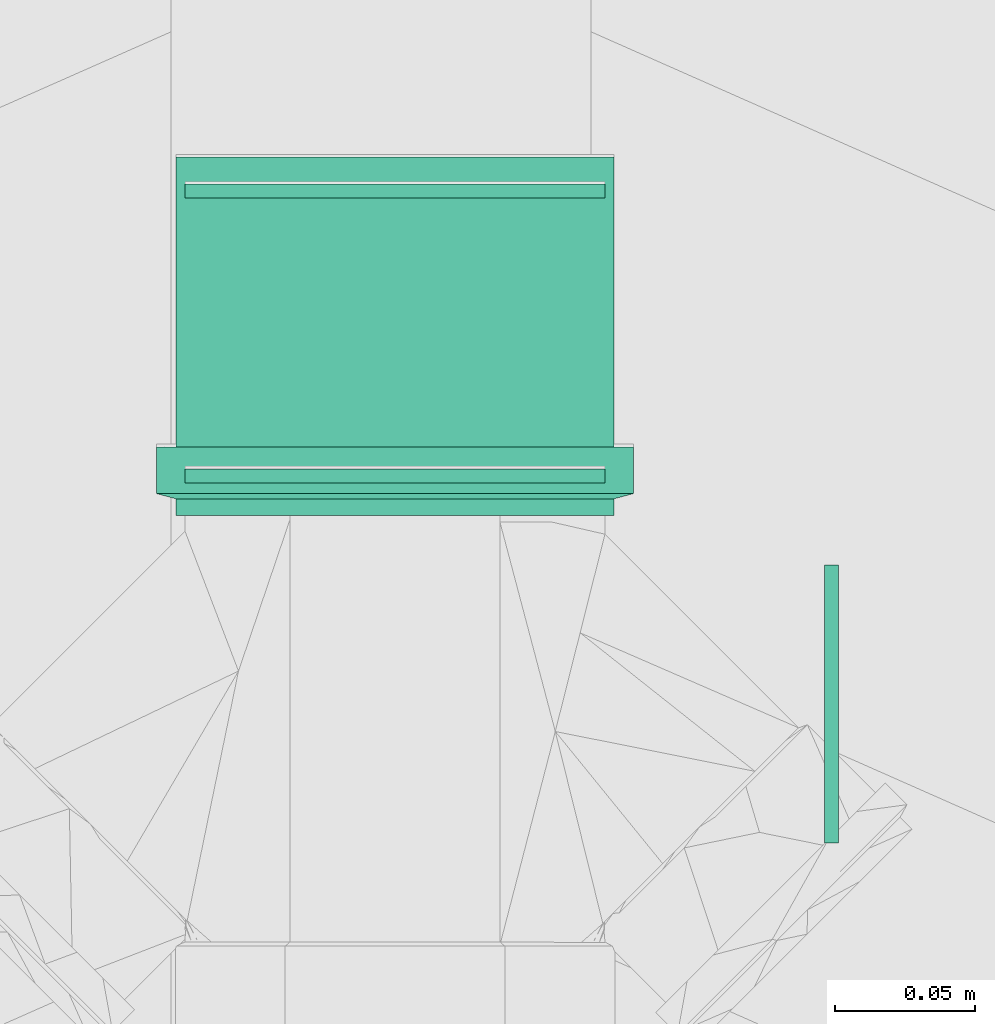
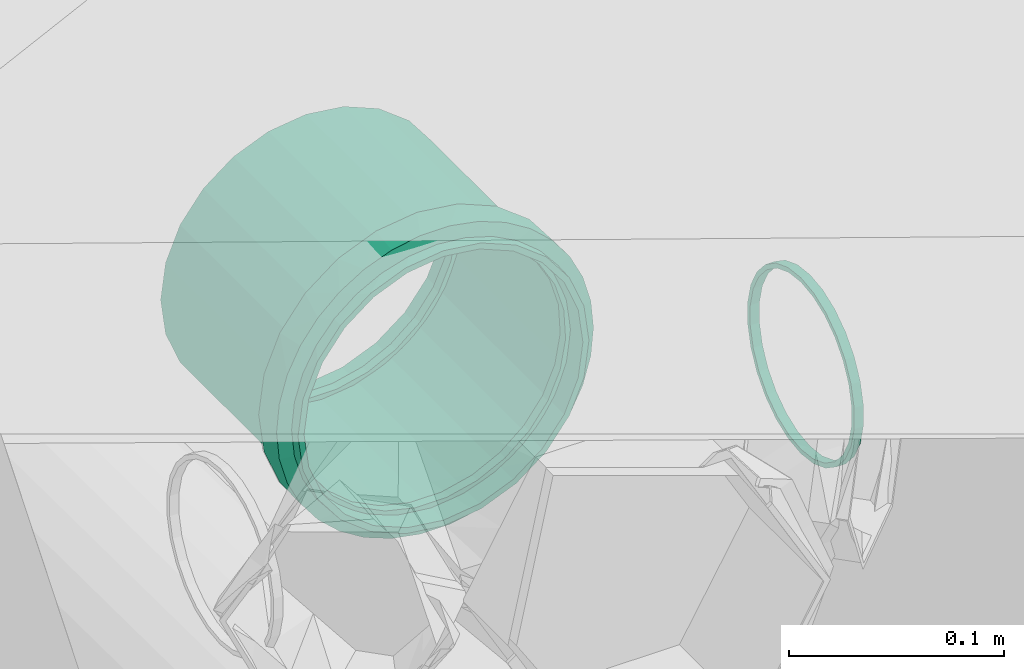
# One storey, part 84 of 166: 4 flow fittings.
"""IFC2X3 building model written with IfcOpenShell, lengths in metres."""

import ifcopenshell
import ifcopenshell.guid

model = None  # the IFC model being written
_history = None  # IfcOwnerHistory: only IFC2X3 demands one
_inside = {}  # id of a spatial element -> (the spatial element, [elements in it])
_under = {}  # id of a project, library or spatial element -> (it, [spatial elements below it])
_declared = {}  # id of a project -> (the project, [libraries it declares])
_typed = {}  # id of a type object -> (the type object, [elements of that type])
_made_of = {}  # id of a material, layer set ... -> (it, [elements and type objects made of it])


def new_model(schema):
    """Start an empty IFC model of exactly this schema.

    Asked for "IFC4X3", IfcOpenShell would pick the latest addendum, in which some entities
    have other attributes; the version numbers below select the first issue.
    IFC2X3 requires an IfcOwnerHistory on every rooted entity: one is made here for all.
    """
    global model, _history
    if schema == "IFC4X3":
        model = ifcopenshell.file(schema_version=(4, 3, 0, 0))
    else:
        model = ifcopenshell.file(schema=schema)
    _inside.clear()
    _under.clear()
    _declared.clear()
    _typed.clear()
    _made_of.clear()
    _history = None
    if model.schema == "IFC2X3":
        org = make("IfcOrganization", Name="unknown")
        user = make(
            "IfcPersonAndOrganization",
            ThePerson=make("IfcPerson", FamilyName="unknown"),
            TheOrganization=org,
        )
        app = make(
            "IfcApplication",
            ApplicationDeveloper=org,
            Version="unknown",
            ApplicationFullName="unknown",
            ApplicationIdentifier="unknown",
        )
        _history = make(
            "IfcOwnerHistory",
            OwningUser=user,
            OwningApplication=app,
            ChangeAction="ADDED",
            CreationDate=0,
        )
    return model


def make(cls, **values):
    """One entity of the class cls with the attributes given. An attribute that is None is left unset."""
    return model.create_entity(
        cls, **{name: value for name, value in values.items() if value is not None}
    )


def entity(cls, *values):
    """Any entity or typed value of the class cls, its attributes in the order of the schema. None: left unset."""
    e = model.create_entity(cls)
    for i, value in enumerate(values):
        if value is not None:
            e[i] = value
    return e


def rooted(cls, **values):
    """An entity with a GlobalId (a new one), such as an element, a storey or a relation."""
    return make(cls, GlobalId=ifcopenshell.guid.new(), OwnerHistory=_history, **values)


def si_unit(unit_type, name, prefix=None):
    """IfcSIUnit, for example si_unit("LENGTHUNIT", "METRE", prefix="MILLI")."""
    return make("IfcSIUnit", UnitType=unit_type, Prefix=prefix, Name=name)


def converted_unit(unit_type, name, factor, base, dimensions=None, offset=None):
    """IfcConversionBasedUnit, such as the inch: factor (a typed value) times the base unit."""
    return make(
        "IfcConversionBasedUnit"
        if offset is None
        else "IfcConversionBasedUnitWithOffset",
        ConversionOffset=offset,
        Dimensions=None
        if dimensions is None
        else entity("IfcDimensionalExponents", *dimensions),
        UnitType=unit_type,
        Name=name,
        ConversionFactor=make(
            "IfcMeasureWithUnit", ValueComponent=factor, UnitComponent=base
        ),
    )


def assignment(units):
    """IfcUnitAssignment: the units of a project."""
    return None if units is None else make("IfcUnitAssignment", Units=units)


def point(xyz):
    """IfcCartesianPoint."""
    return None if xyz is None else make("IfcCartesianPoint", Coordinates=xyz)


def direction(xyz):
    """IfcDirection."""
    return None if xyz is None else make("IfcDirection", DirectionRatios=xyz)


def frame(location, z_axis=None, x_axis=None):
    """IfcAxis2Placement3D, a coordinate frame: its origin and axes. An axis left out is left unset."""
    return make(
        "IfcAxis2Placement3D",
        Location=point(location),
        Axis=direction(z_axis),
        RefDirection=direction(x_axis),
    )


def frame_2d(location, x_axis=None):
    """IfcAxis2Placement2D, a coordinate frame in the plane: its origin and x axis."""
    return make(
        "IfcAxis2Placement2D", Location=point(location), RefDirection=direction(x_axis)
    )


def origin():
    """The frame at (0, 0, 0) with its axes left unset."""
    return frame((0.0, 0.0, 0.0))


def place(relative_to, where):
    """IfcLocalPlacement: puts the frame where relative to a parent placement (None: the world)."""
    return make(
        "IfcLocalPlacement", PlacementRelTo=relative_to, RelativePlacement=where
    )


def context(
    kind, dimensions, precision=None, world=None, true_north=None, identifier=None
):
    """IfcGeometricRepresentationContext, for example the 3D "Model" context."""
    return make(
        "IfcGeometricRepresentationContext",
        ContextIdentifier=identifier,
        ContextType=kind,
        CoordinateSpaceDimension=dimensions,
        Precision=precision,
        WorldCoordinateSystem=world,
        TrueNorth=true_north,
    )


def subcontext(parent, identifier, kind, view, scale=None):
    """IfcGeometricRepresentationSubContext, for example "Body" below "Model"."""
    return make(
        "IfcGeometricRepresentationSubContext",
        ContextIdentifier=identifier,
        ContextType=kind,
        ParentContext=parent,
        TargetScale=scale,
        TargetView=view,
    )


def project(units=None, contexts=None):
    """IfcProject with its units and contexts."""
    return rooted(
        "IfcProject",
        Name="project",
        RepresentationContexts=contexts,
        UnitsInContext=assignment(units),
    )


def spatial(cls, under=None, at=None, **own):
    """A site, building, storey or space (cls), placed at a placement, below another one or the project."""
    s = rooted(cls, ObjectPlacement=at, **own)
    if under is not None:
        _under.setdefault(under.id(), (under, []))[1].append(s)
    return s


def profile(cls, at=None, kind="AREA", **sizes):
    """A parametric profile (cls). Its sizes go by their IFC names, for example OverallWidth=200.0."""
    return make(cls, ProfileType=kind, Position=at, **sizes)


def hollow_circle(**sizes):
    """IfcCircleHollowProfileDef."""
    return profile("IfcCircleHollowProfileDef", **sizes)


def extrude(swept, where, along, depth):
    """IfcExtrudedAreaSolid: the profile swept, set in the frame where, extruded along a direction by depth."""
    return make(
        "IfcExtrudedAreaSolid",
        SweptArea=swept,
        Position=where,
        ExtrudedDirection=direction(along),
        Depth=depth,
    )


def faces_of(points, faces, orient=None, outer=None):
    """IfcFace entities. A face is a list of loops; a loop is a list of indices into points, from 0.

    orient and outer hold one flag for each loop. By default every Orientation is true, the
    first loop of a face is its IfcFaceOuterBound and the others are IfcFaceBound.
    """
    made = []
    for i, loops in enumerate(faces):
        bounds = []
        for j, loop in enumerate(loops):
            is_outer = j == 0 if outer is None else outer[i][j]
            bounds.append(
                make(
                    "IfcFaceOuterBound" if is_outer else "IfcFaceBound",
                    Bound=make("IfcPolyLoop", Polygon=[points[k] for k in loop]),
                    Orientation=True if orient is None else orient[i][j],
                )
            )
        made.append(make("IfcFace", Bounds=bounds))
    return made


def faceted_brep(points, faces, orient=None, outer=None, voids=None):
    """IfcFacetedBrep: a solid bounded by flat faces; with voids (closed shells), ...WithVoids."""
    shared = [point(p) for p in points]
    hull = make("IfcClosedShell", CfsFaces=faces_of(shared, faces, orient, outer))
    if voids is None:
        return make("IfcFacetedBrep", Outer=hull)
    return make(
        "IfcFacetedBrepWithVoids",
        Outer=hull,
        Voids=[
            make(cls, CfsFaces=faces_of(shared, fs, o, b)) for cls, fs, o, b in voids
        ],
    )


def shape(context_of_items, identifier, shape_type, items):
    """IfcShapeRepresentation: the items that make up one representation, for example the "Body"."""
    return make(
        "IfcShapeRepresentation",
        ContextOfItems=context_of_items,
        RepresentationIdentifier=identifier,
        RepresentationType=shape_type,
        Items=items,
    )


def source(mapping_origin, context_of_items, identifier, shape_type, items):
    """IfcRepresentationMap: a shape defined once, which mapped items show again and again."""
    return make(
        "IfcRepresentationMap",
        MappingOrigin=mapping_origin,
        MappedRepresentation=shape(context_of_items, identifier, shape_type, items),
    )


def transform(
    local_origin,
    x_axis=None,
    y_axis=None,
    z_axis=None,
    scale=None,
    scale2=None,
    scale3=None,
    uniform=True,
):
    """IfcCartesianTransformationOperator3D, or its non-uniform kind. x_axis, y_axis, z_axis: its Axis1, 2, 3."""
    if uniform:
        return make(
            "IfcCartesianTransformationOperator3D",
            Axis1=direction(x_axis),
            Axis2=direction(y_axis),
            LocalOrigin=point(local_origin),
            Scale=scale,
            Axis3=direction(z_axis),
        )
    return make(
        "IfcCartesianTransformationOperator3DnonUniform",
        Axis1=direction(x_axis),
        Axis2=direction(y_axis),
        LocalOrigin=point(local_origin),
        Scale=scale,
        Axis3=direction(z_axis),
        Scale2=scale2,
        Scale3=scale3,
    )


def mapped(mapping_source, mapping_target):
    """IfcMappedItem: shows the shape of a source again, moved by a transform."""
    return make(
        "IfcMappedItem", MappingSource=mapping_source, MappingTarget=mapping_target
    )


def material(Name=None, Category=None):
    """IfcMaterial."""
    return make("IfcMaterial", Name=Name, Category=Category)


def made_of(thing, what):
    """Note that an element or type object is made of a material, layer set ...; save() writes the relation."""
    if what is not None:
        _made_of.setdefault(what.id(), (what, []))[1].append(thing)
    return thing


def type_object(cls, material=None, **own):
    """A type object (cls), such as IfcWallType, which elements share."""
    return made_of(rooted(cls, **own), material)


def type_shapes(of_type, sources):
    """Give a type object the sources (RepresentationMaps) that its elements show as mapped items."""
    of_type.RepresentationMaps = sources


def element(
    cls,
    number,
    at=None,
    inside=None,
    cuts=None,
    type_object=None,
    material=None,
    context=None,
    identifier="Body",
    shape_type=None,
    held_by="IfcProductDefinitionShape",
    body=None,
    shapes=None,
    **own,
):
    """One element of the class cls, such as IfcWall. Its Tag is "e" and its number.

    at: its placement. inside: the storey or other place that contains it. cuts: it is an
    opening in that element (IfcRelVoidsElement). A single representation is given by context,
    identifier, shape_type and body (its items); several are given by shapes. held_by: the class
    of the entity that holds the representations. save() writes the other relations.
    """
    e = rooted(cls, Tag="e%d" % number, ObjectPlacement=at, **own)
    if body is not None:
        shapes = [shape(context, identifier, shape_type, body)]
    if shapes is not None:
        e.Representation = make(held_by, Representations=shapes)
    if inside is not None:
        _inside.setdefault(inside.id(), (inside, []))[1].append(e)
    if cuts is not None:
        rooted(
            "IfcRelVoidsElement", RelatingBuildingElement=cuts, RelatedOpeningElement=e
        )
    if type_object is not None:
        _typed.setdefault(type_object.id(), (type_object, []))[1].append(e)
    return made_of(e, material)


def aggregate(whole, parts):
    """IfcRelAggregates: a whole, such as a stair, and the parts it consists of."""
    return rooted("IfcRelAggregates", RelatingObject=whole, RelatedObjects=parts)


def save(model, path):
    """Write the relations noted so far, then the file.

    IfcRelAggregates (storeys below a building ...), IfcRelContainedInSpatialStructure (elements
    in a storey), IfcRelDefinesByType, IfcRelAssociatesMaterial and IfcRelDeclares: one each for
    every whole, place, type object, material and project.
    """
    for whole, parts in _under.values():
        aggregate(whole, parts)
    for where, things in _inside.values():
        rooted(
            "IfcRelContainedInSpatialStructure",
            RelatedElements=things,
            RelatingStructure=where,
        )
    for kind, things in _typed.values():
        rooted("IfcRelDefinesByType", RelatedObjects=things, RelatingType=kind)
    for what, things in _made_of.values():
        rooted("IfcRelAssociatesMaterial", RelatedObjects=things, RelatingMaterial=what)
    for by, libraries in _declared.values():
        rooted("IfcRelDeclares", RelatingContext=by, RelatedDefinitions=libraries)
    model.write(path)


model = new_model("IFC2X3")

# Units and contexts
model_context = context("Model", 3, precision=1e-05, world=origin(), true_north=direction((6.123233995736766e-17, 1.0)))
body_context = subcontext(model_context, "Body", "Model", "MODEL_VIEW")
ifc_project = project(units=[si_unit("LENGTHUNIT", "METRE"), converted_unit("PLANEANGLEUNIT", "DEGREE", entity("IfcPlaneAngleMeasure", 0.017453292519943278), si_unit("PLANEANGLEUNIT", "RADIAN"), dimensions=[0, 0, 0, 0, 0, 0, 0]), si_unit("AREAUNIT", "SQUARE_METRE")], contexts=[model_context])

# Site, building, storey
site_placement = place(None, origin())
site = spatial("IfcSite", under=ifc_project, at=site_placement, Name="Default", CompositionType="ELEMENT")
building_placement = place(site_placement, origin())
building = spatial("IfcBuilding", under=site, at=building_placement, Name="CASA DE ACOLHIDA PARA IDOSOS", CompositionType="ELEMENT")
storey_placement = place(building_placement, frame((0.0, 0.0, -1.7499999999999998)))
storey = spatial("IfcBuildingStorey", under=building, at=storey_placement, Name="IMPLANTAÇÃO DRENAGEM", CompositionType="ELEMENT", Elevation=-1.7499999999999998)

# Flow fittings
ifc_material_1 = material(Name="PVC Bege Pérola")
pipe_fitting_type_1 = type_object("IfcPipeFittingType", Name="PLUV_Serie Reforcada_Luva Simples:Standard", PredefinedType="NOTDEFINED", material=ifc_material_1)
shared_shape_1 = source(origin(), body_context, "Body", "Brep", [
    faceted_brep([(0.02451000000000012, 0.04262500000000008, -0.07382866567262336), (0.02451000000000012, 0.06028085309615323, -0.06028085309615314), (0.02451000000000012, 0.039124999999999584, -0.06776648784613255), (0.02451000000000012, 0.020252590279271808, -0.0755836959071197), (0.02451000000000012, 0.022064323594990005, -0.08234517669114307), (0.02451000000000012, 0.05533110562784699, -0.055331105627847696), (0.02451000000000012, 0.07382866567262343, -0.04262499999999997), (0.02451000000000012, 0.06776648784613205, -0.03912500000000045), (0.02451000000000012, 0.07558369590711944, -0.02025259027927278), (0.02451000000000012, 0.08234517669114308, -0.022064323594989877), (0.02451000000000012, 0.07825, 0.0), (0.02451000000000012, 0.08525, 0.0), (0.02451000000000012, 0.07558369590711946, 0.020252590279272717), (0.02451000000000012, 0.0823451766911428, 0.022064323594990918), (0.02451000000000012, 0.06776648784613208, 0.039125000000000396), (0.02451000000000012, 0.07382866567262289, 0.04262500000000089), (0.02451000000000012, 0.05533110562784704, 0.055331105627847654), (0.02451000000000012, 0.06028085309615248, 0.0602808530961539), (0.02451000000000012, 0.03912499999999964, 0.06776648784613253), (0.02451000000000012, 0.04262499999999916, 0.07382866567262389), (0.02451000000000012, 0.020252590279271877, 0.07558369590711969), (0.02451000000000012, 0.02206432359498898, 0.08234517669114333), (0.02451000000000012, 0.0, 0.07825), (0.02451000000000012, 0.0, 0.08525), (0.02451000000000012, -0.020252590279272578, 0.0755836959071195), (0.02451000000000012, -0.022064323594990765, 0.08234517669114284), (0.02451000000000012, -0.03912500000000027, 0.06776648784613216), (0.02451000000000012, -0.042625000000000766, 0.07382866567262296), (0.02451000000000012, -0.05533110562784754, 0.055331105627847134), (0.02451000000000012, -0.0602808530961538, 0.06028085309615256), (0.02451000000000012, -0.06776648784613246, 0.03912499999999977), (0.02451000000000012, -0.07382866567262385, 0.042624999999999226), (0.02451000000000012, -0.08234517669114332, 0.02206432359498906), (0.02451000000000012, -0.07558369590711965, 0.020252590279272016), (0.02451000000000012, -0.08525, 0.0), (0.02451000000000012, -0.07825, 0.0), (0.02451000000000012, -0.08234517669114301, -0.022064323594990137), (0.02451000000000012, -0.07558369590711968, -0.020252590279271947), (0.02451000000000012, -0.07382866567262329, -0.04262500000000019), (0.02451000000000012, -0.0677664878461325, -0.03912499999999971), (0.02451000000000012, -0.060280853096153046, -0.060280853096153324), (0.02451000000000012, -0.05533110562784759, -0.055331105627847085), (0.02451000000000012, -0.042624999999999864, -0.0738286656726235), (0.02451000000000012, -0.039125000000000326, -0.06776648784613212), (0.02451000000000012, -0.02206432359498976, -0.08234517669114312), (0.02451000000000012, -0.02025259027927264, -0.07558369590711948), (0.02451000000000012, 0.0, -0.08525), (0.02451000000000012, 0.0, -0.07825), (0.007830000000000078, -0.08379835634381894, 0.01566518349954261), (0.007830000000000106, -0.07949286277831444, 0.03079687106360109), (0.007830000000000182, -0.05137242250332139, 0.06803261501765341), (0.007830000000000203, -0.03799626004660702, 0.07631413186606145), (0.007830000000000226, -0.00786152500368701, 0.08488674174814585), (0.00783000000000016, -0.06299903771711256, 0.057434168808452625), (0.007830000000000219, -0.023326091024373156, 0.08199668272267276), (0.007830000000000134, -0.07248014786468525, 0.044879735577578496), (0.00783000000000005, -0.08525, 0.0), (0.00783000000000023, 0.007870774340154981, 0.08488588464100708), (0.007830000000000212, 0.03800457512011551, 0.07630999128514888), (0.007830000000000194, 0.05137983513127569, 0.06802701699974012), (0.007830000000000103, 0.07949621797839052, 0.030788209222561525), (0.007830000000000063, 0.08380006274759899, 0.015656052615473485), (0.007830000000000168, 0.06300529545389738, 0.05742730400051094), (0.00783000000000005, 0.08525, 0.0), (0.007830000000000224, 0.023335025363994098, 0.08199414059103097), (0.007830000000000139, 0.07248503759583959, 0.04487183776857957), (0.007830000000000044, 0.08380006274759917, -0.015656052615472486), (0.007830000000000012, 0.07949621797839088, -0.03078820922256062), (0.00782999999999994, 0.05137983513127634, -0.06802701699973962), (0.007829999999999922, 0.038004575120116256, -0.07630999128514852), (0.007829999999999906, 0.007870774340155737, -0.084885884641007), (0.00782999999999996, 0.063005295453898, -0.05742730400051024), (0.007829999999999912, 0.023335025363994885, -0.08199414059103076), (0.007829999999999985, 0.07248503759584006, -0.04487183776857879), (0.007829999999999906, -0.007861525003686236, -0.0848867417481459), (0.007829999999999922, -0.037996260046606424, -0.07631413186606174), (0.007829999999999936, -0.05137242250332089, -0.06803261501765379), (0.00783, -0.07949286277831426, -0.030796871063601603), (0.007830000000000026, -0.08379835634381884, -0.015665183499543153), (0.007829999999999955, -0.06299903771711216, -0.057434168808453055), (0.007829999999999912, -0.023326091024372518, -0.08199668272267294), (0.007829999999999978, -0.07248014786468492, -0.044879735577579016), (0.1280100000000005, 0.03912500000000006, -0.06776648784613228), (0.1280100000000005, 0.055331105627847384, -0.05533110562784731), (0.1280100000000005, 0.0374999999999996, -0.06495190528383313), (0.1280100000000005, 0.01941142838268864, -0.07244443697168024), (0.1280100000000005, 0.020252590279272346, -0.07558369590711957), (0.1280100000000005, 0.05303300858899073, -0.053033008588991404), (0.1280100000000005, 0.06776648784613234, -0.039124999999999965), (0.1280100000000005, 0.06495190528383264, -0.03750000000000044), (0.1280100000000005, 0.07244443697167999, -0.01941142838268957), (0.1280100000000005, 0.07558369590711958, -0.020252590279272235), (0.1280100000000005, 0.07500000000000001, 0.0), (0.1280100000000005, 0.07825, 0.0), (0.1280100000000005, 0.07244443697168, 0.019411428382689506), (0.1280100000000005, 0.07558369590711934, 0.020252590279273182), (0.1280100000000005, 0.06495190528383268, 0.03750000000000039), (0.1280100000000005, 0.06776648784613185, 0.03912500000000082), (0.1280100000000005, 0.05303300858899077, 0.05303300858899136), (0.1280100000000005, 0.0553311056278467, 0.055331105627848), (0.1280100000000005, 0.03749999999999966, 0.0649519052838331), (0.1280100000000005, 0.039124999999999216, 0.06776648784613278), (0.1280100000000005, 0.0194114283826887, 0.07244443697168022), (0.1280100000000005, 0.020252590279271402, 0.07558369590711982), (0.1280100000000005, 0.0, 0.07500000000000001), (0.1280100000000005, 0.0, 0.07825), (0.1280100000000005, -0.019411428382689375, 0.07244443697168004), (0.1280100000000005, -0.020252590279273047, 0.07558369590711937), (0.1280100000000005, -0.03750000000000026, 0.06495190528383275), (0.1280100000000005, -0.039125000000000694, 0.06776648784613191), (0.1280100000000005, -0.05303300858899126, 0.05303300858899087), (0.1280100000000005, -0.055331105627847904, 0.05533110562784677), (0.1280100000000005, -0.06495190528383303, 0.037499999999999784), (0.1280100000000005, -0.06776648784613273, 0.039124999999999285), (0.1280100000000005, -0.0755836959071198, 0.02025259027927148), (0.1280100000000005, -0.07244443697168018, 0.019411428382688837), (0.1280100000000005, -0.07825, 0.0), (0.1280100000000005, -0.07500000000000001, 0.0), (0.1280100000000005, -0.07558369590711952, -0.020252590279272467), (0.1280100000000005, -0.0724444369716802, -0.01941142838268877), (0.1280100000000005, -0.06776648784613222, -0.039125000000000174), (0.1280100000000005, -0.06495190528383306, -0.03749999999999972), (0.1280100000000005, -0.05533110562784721, -0.05533110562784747), (0.1280100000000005, -0.053033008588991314, -0.05303300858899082), (0.1280100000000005, -0.03912499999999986, -0.0677664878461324), (0.1280100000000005, -0.03750000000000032, -0.06495190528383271), (0.1280100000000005, -0.02025259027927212, -0.07558369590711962), (0.1280100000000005, -0.019411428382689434, -0.07244443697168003), (0.1280100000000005, 0.0, -0.07825), (0.1280100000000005, 0.0, -0.07500000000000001), (0.0, 0.0374999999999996, -0.06495190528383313), (0.0, 0.055331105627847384, -0.05533110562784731), (0.0, 0.03912500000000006, -0.06776648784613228), (0.0, 0.01941142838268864, -0.07244443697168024), (0.0, 0.05303300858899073, -0.053033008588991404), (0.0, 0.06776648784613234, -0.039124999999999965), (0.0, 0.06495190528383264, -0.03750000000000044), (0.0, 0.07244443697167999, -0.01941142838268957), (0.0, 0.07558369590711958, -0.020252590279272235), (0.0, 0.07500000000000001, 0.0), (0.0, 0.07825, 0.0), (0.0, 0.07244443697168, 0.019411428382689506), (0.0, 0.07558369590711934, 0.020252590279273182), (0.0, 0.06495190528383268, 0.03750000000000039), (0.0, 0.06776648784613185, 0.03912500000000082), (0.0, 0.05303300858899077, 0.05303300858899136), (0.0, 0.0553311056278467, 0.055331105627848), (0.0, 0.03749999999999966, 0.0649519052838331), (0.0, 0.039124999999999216, 0.06776648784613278), (0.0, 0.0194114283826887, 0.07244443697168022), (0.0, 0.020252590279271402, 0.07558369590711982), (0.0, 0.0, 0.07500000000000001), (0.0, 0.0, 0.07825), (0.0, -0.019411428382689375, 0.07244443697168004), (0.0, -0.020252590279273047, 0.07558369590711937), (0.0, -0.03750000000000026, 0.06495190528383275), (0.0, -0.039125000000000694, 0.06776648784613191), (0.0, -0.05303300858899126, 0.05303300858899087), (0.0, -0.055331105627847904, 0.05533110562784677), (0.0, -0.06495190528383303, 0.037499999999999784), (0.0, -0.06776648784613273, 0.039124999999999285), (0.0, -0.0755836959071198, 0.02025259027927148), (0.0, -0.07244443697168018, 0.019411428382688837), (0.0, -0.07825, 0.0), (0.0, -0.07500000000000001, 0.0), (0.0, -0.07558369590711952, -0.020252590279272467), (0.0, -0.0724444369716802, -0.01941142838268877), (0.0, -0.06776648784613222, -0.039125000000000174), (0.0, -0.06495190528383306, -0.03749999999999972), (0.0, -0.05533110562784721, -0.05533110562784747), (0.0, -0.053033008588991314, -0.05303300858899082), (0.0, -0.03912499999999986, -0.0677664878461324), (0.0, -0.03750000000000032, -0.06495190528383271), (0.0, -0.02025259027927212, -0.07558369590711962), (0.0, -0.019411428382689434, -0.07244443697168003), (0.0, 0.0, -0.07825), (0.0, 0.0, -0.07500000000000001), (0.0, 0.020252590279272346, -0.07558369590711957), (0.005950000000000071, -0.07674636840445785, 0.015266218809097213), (0.0059500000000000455, -0.07825, 0.0), (0.005950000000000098, -0.0722932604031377, 0.02994573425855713), (0.005950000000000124, -0.06506181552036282, 0.043474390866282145), (0.005950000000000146, -0.05532994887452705, 0.05533226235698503), (0.005950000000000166, -0.04347167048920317, 0.06506363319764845), (0.005950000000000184, -0.029942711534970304, 0.07229451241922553), (0.005950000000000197, -0.015263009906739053, 0.07674700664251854), (0.005950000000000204, 3.271758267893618e-06, 0.07824999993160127), (0.005950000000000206, 0.015269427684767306, 0.07674573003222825), (0.005950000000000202, 0.029948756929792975, 0.07229200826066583), (0.00595000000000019, 0.04347711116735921, 0.0650599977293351), (0.005950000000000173, 0.055334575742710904, 0.05532763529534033), (0.0059500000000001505, 0.06506545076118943, 0.043468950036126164), (0.005950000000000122, 0.07229576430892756, 0.02993968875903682), (0.005950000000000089, 0.07674764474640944, 0.015259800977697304), (0.0059500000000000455, 0.07825, 0.0), (0.0059499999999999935, 0.07674764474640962, -0.015259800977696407), (0.005949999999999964, 0.0722957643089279, -0.02993968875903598), (0.005949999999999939, 0.06506545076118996, -0.04346895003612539), (0.005949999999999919, 0.05533457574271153, -0.05532763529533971), (0.005949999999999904, 0.04347711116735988, -0.06505999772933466), (0.005949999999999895, 0.029948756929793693, -0.07229200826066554), (0.00594999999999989, 0.015269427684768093, -0.0767457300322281), (0.005949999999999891, 3.2717582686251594e-06, -0.07824999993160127), (0.00594999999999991, -0.029942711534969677, -0.0722945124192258), (0.005949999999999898, -0.015263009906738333, -0.07674700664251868), (0.005949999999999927, -0.04347167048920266, -0.0650636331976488), (0.005949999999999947, -0.055329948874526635, -0.055332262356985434), (0.00594999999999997, -0.06506181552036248, -0.043474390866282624), (0.005949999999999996, -0.0722932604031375, -0.02994573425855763), (0.00595000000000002, -0.07674636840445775, -0.015266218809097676), (0.06700000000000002, -0.07500000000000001, 0.0), (0.067, 0.07500000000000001, 0.0)], [[[0, 1, 2]], [[0, 2, 3]], [[3, 4, 0]], [[2, 1, 5]], [[6, 5, 1]], [[5, 6, 7]], [[7, 6, 8]], [[9, 8, 6]], [[9, 10, 8]], [[10, 9, 11]], [[12, 10, 11]], [[11, 13, 12]], [[12, 13, 14]], [[15, 14, 13]], [[14, 15, 16]], [[16, 15, 17]], [[18, 16, 17]], [[17, 19, 18]], [[18, 19, 20]], [[21, 20, 19]], [[20, 21, 22]], [[22, 21, 23]], [[22, 23, 24]], [[24, 23, 25]], [[24, 25, 26]], [[27, 26, 25]], [[27, 28, 26]], [[28, 27, 29]], [[29, 30, 28]], [[31, 30, 29]], [[30, 31, 32]], [[32, 33, 30]], [[34, 33, 32]], [[34, 35, 33]], [[36, 35, 34]], [[36, 37, 35]], [[37, 36, 38]], [[38, 39, 37]], [[39, 38, 40]], [[39, 40, 41]], [[40, 42, 41]], [[41, 42, 43]], [[43, 42, 44]], [[44, 45, 43]], [[46, 45, 44]], [[4, 47, 46]], [[46, 47, 45]], [[4, 3, 47]], [[32, 48, 34]], [[31, 49, 32]], [[50, 29, 27]], [[27, 25, 51]], [[52, 25, 23]], [[31, 29, 53]], [[52, 54, 25]], [[55, 49, 31]], [[49, 48, 32]], [[48, 56, 34]], [[51, 50, 27]], [[53, 29, 50]], [[53, 55, 31]], [[51, 25, 54]], [[21, 57, 23]], [[58, 21, 19]], [[19, 17, 59]], [[60, 15, 13]], [[13, 11, 61]], [[17, 15, 62]], [[11, 63, 61]], [[59, 58, 19]], [[58, 64, 21]], [[64, 57, 21]], [[60, 65, 15]], [[62, 15, 65]], [[62, 59, 17]], [[60, 13, 61]], [[23, 57, 52]], [[9, 66, 11]], [[6, 67, 9]], [[68, 1, 0]], [[0, 4, 69]], [[70, 4, 46]], [[6, 1, 71]], [[70, 72, 4]], [[73, 67, 6]], [[67, 66, 9]], [[66, 63, 11]], [[69, 68, 0]], [[71, 1, 68]], [[71, 73, 6]], [[69, 4, 72]], [[44, 74, 46]], [[75, 44, 42]], [[42, 40, 76]], [[38, 36, 77]], [[78, 36, 34]], [[34, 56, 78]], [[40, 38, 79]], [[78, 77, 36]], [[76, 75, 42]], [[75, 80, 44]], [[80, 74, 44]], [[79, 38, 81]], [[79, 76, 40]], [[77, 81, 38]], [[46, 74, 70]], [[82, 83, 84]], [[82, 84, 85]], [[85, 86, 82]], [[84, 83, 87]], [[88, 87, 83]], [[87, 88, 89]], [[89, 88, 90]], [[91, 90, 88]], [[91, 92, 90]], [[92, 91, 93]], [[94, 92, 93]], [[93, 95, 94]], [[94, 95, 96]], [[97, 96, 95]], [[96, 97, 98]], [[98, 97, 99]], [[100, 98, 99]], [[99, 101, 100]], [[100, 101, 102]], [[103, 102, 101]], [[102, 103, 104]], [[104, 103, 105]], [[104, 105, 106]], [[106, 105, 107]], [[106, 107, 108]], [[109, 108, 107]], [[110, 108, 109]], [[110, 109, 111]], [[111, 112, 110]], [[113, 112, 111]], [[112, 113, 114]], [[114, 115, 112]], [[116, 115, 114]], [[116, 117, 115]], [[118, 117, 116]], [[118, 119, 117]], [[119, 118, 120]], [[120, 121, 119]], [[121, 120, 122]], [[121, 122, 123]], [[122, 124, 123]], [[125, 123, 124]], [[125, 124, 126]], [[126, 127, 125]], [[128, 127, 126]], [[86, 129, 128]], [[128, 129, 127]], [[86, 85, 129]], [[130, 131, 132]], [[133, 130, 132]], [[134, 131, 130]], [[131, 134, 135]], [[136, 135, 134]], [[137, 135, 136]], [[135, 137, 138]], [[137, 139, 138]], [[140, 138, 139]], [[140, 139, 141]], [[141, 142, 140]], [[143, 142, 141]], [[142, 143, 144]], [[145, 144, 143]], [[146, 144, 145]], [[146, 145, 147]], [[147, 148, 146]], [[149, 148, 147]], [[148, 149, 150]], [[151, 150, 149]], [[152, 150, 151]], [[153, 152, 151]], [[154, 152, 153]], [[155, 154, 153]], [[154, 155, 156]], [[156, 155, 157]], [[158, 156, 157]], [[157, 159, 158]], [[158, 159, 160]], [[161, 160, 159]], [[159, 162, 161]], [[161, 162, 163]], [[162, 164, 163]], [[163, 164, 165]], [[164, 166, 165]], [[167, 165, 166]], [[166, 168, 167]], [[169, 167, 168]], [[170, 169, 168]], [[170, 171, 169]], [[171, 170, 172]], [[173, 171, 172]], [[172, 174, 173]], [[173, 174, 175]], [[174, 176, 175]], [[176, 133, 177]], [[175, 176, 177]], [[132, 177, 133]], [[178, 163, 179]], [[180, 161, 178]], [[158, 181, 182]], [[182, 183, 158]], [[180, 181, 160]], [[184, 156, 183]], [[158, 160, 181]], [[160, 161, 180]], [[161, 163, 178]], [[185, 152, 154]], [[152, 185, 186]], [[156, 184, 154]], [[156, 158, 183]], [[185, 154, 184]], [[150, 152, 187]], [[188, 150, 187]], [[146, 189, 190]], [[190, 191, 146]], [[188, 189, 148]], [[192, 144, 191]], [[144, 146, 191]], [[146, 148, 189]], [[148, 150, 188]], [[193, 194, 140]], [[140, 142, 193]], [[142, 144, 192]], [[192, 193, 142]], [[187, 152, 186]], [[195, 140, 194]], [[196, 138, 195]], [[131, 197, 198]], [[198, 199, 131]], [[196, 197, 135]], [[200, 132, 199]], [[131, 135, 197]], [[135, 138, 196]], [[138, 140, 195]], [[177, 201, 175]], [[132, 200, 177]], [[201, 202, 175]], [[132, 131, 199]], [[201, 177, 200]], [[203, 173, 204]], [[205, 171, 203]], [[169, 206, 207]], [[167, 207, 208]], [[205, 206, 169]], [[165, 208, 209]], [[169, 171, 205]], [[171, 173, 203]], [[173, 175, 204]], [[163, 165, 209]], [[167, 208, 165]], [[167, 169, 207]], [[163, 209, 179]], [[204, 175, 202]], [[81, 208, 207]], [[179, 209, 78]], [[209, 208, 77]], [[205, 203, 75]], [[76, 206, 205]], [[206, 79, 207]], [[204, 80, 203]], [[78, 209, 77]], [[56, 179, 78]], [[77, 208, 81]], [[74, 80, 204]], [[76, 79, 206]], [[75, 76, 205]], [[80, 75, 203]], [[81, 207, 79]], [[204, 202, 74]], [[72, 201, 200]], [[201, 70, 202]], [[199, 69, 200]], [[196, 195, 67]], [[73, 197, 196]], [[198, 197, 71]], [[198, 68, 199]], [[66, 195, 194]], [[68, 69, 199]], [[72, 70, 201]], [[69, 72, 200]], [[63, 66, 194]], [[73, 71, 197]], [[67, 73, 196]], [[66, 67, 195]], [[68, 198, 71]], [[202, 70, 74]], [[65, 192, 191]], [[194, 193, 61]], [[193, 192, 60]], [[189, 188, 58]], [[59, 190, 189]], [[190, 62, 191]], [[187, 64, 188]], [[61, 193, 60]], [[63, 194, 61]], [[60, 192, 65]], [[57, 64, 187]], [[59, 62, 190]], [[58, 59, 189]], [[64, 58, 188]], [[65, 191, 62]], [[187, 186, 57]], [[54, 185, 184]], [[185, 52, 186]], [[183, 51, 184]], [[180, 178, 49]], [[55, 181, 180]], [[182, 181, 53]], [[182, 50, 183]], [[48, 178, 179]], [[50, 51, 183]], [[54, 52, 185]], [[51, 54, 184]], [[56, 48, 179]], [[55, 53, 181]], [[49, 55, 180]], [[48, 49, 178]], [[50, 182, 53]], [[186, 52, 57]], [[33, 35, 116, 114]], [[113, 30, 33, 114]], [[26, 28, 111, 109]], [[113, 111, 28, 30]], [[24, 26, 109, 107]], [[107, 105, 22, 24]], [[18, 20, 103, 101]], [[99, 16, 18, 101]], [[12, 14, 97, 95]], [[99, 97, 14, 16]], [[10, 12, 95, 93]], [[103, 20, 22, 105]], [[10, 93, 91, 8]], [[88, 7, 8, 91]], [[82, 86, 3, 2]], [[83, 82, 2, 5]], [[7, 88, 83, 5]], [[86, 128, 47, 3]], [[43, 45, 126, 124]], [[122, 41, 43, 124]], [[37, 39, 120, 118]], [[122, 120, 39, 41]], [[35, 37, 118, 116]], [[126, 45, 47, 128]], [[115, 117, 210, 164, 162]], [[155, 108, 110, 157]], [[110, 112, 159, 157]], [[112, 115, 162, 159]], [[106, 108, 155, 153]], [[153, 151, 104, 106]], [[102, 104, 151, 149]], [[102, 149, 147, 100]], [[141, 94, 96, 143]], [[96, 98, 145, 143]], [[98, 100, 147, 145]], [[92, 94, 141, 139, 211]], [[211, 139, 137, 90, 92]], [[130, 84, 87, 134]], [[89, 90, 137, 136]], [[89, 136, 134, 87]], [[85, 84, 130, 133]], [[133, 176, 129, 85]], [[127, 129, 176, 174]], [[127, 174, 172, 125]], [[166, 119, 121, 168]], [[121, 123, 170, 168]], [[123, 125, 172, 170]], [[117, 119, 166, 164, 210]]]),
])
type_shapes(pipe_fitting_type_1, [shared_shape_1])
flow_fitting_1_placement = place(storey_placement, frame((-21.976366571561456, 3.9223420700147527, -0.5999999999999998), z_axis=(0.0, 0.0, -1.0), x_axis=(0.0, 1.0, 0.0)))
element("IfcFlowFitting", 1, at=flow_fitting_1_placement, inside=storey, type_object=pipe_fitting_type_1, material=ifc_material_1, Name="PLUV_Serie Reforcada_Luva Simples:Standard", ObjectType="PLUV_Serie Reforcada_Luva Simples:Standard", context=body_context, shape_type="MappedRepresentation", body=[
    mapped(shared_shape_1, transform((0.0, 0.0, 0.0), scale=1.0)),
])
ifc_material_2 = material(Name="Borracha")
pipe_fitting_type_2 = type_object("IfcPipeFittingType", Name="AN_PLUV_Anel de vedação para Conexão Série R:AN_PLUV_Anel de vedação para Conexão Série R", PredefinedType="NOTDEFINED", material=ifc_material_2)
shared_shape_2 = source(origin(), body_context, "Body", "SweptSolid", [
    extrude(hollow_circle(Radius=0.05, WallThickness=0.0024999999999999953, at=frame_2d((2.979563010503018e-18, -8.077722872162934e-17), x_axis=(1.0, 0.0))), frame((0.0, 0.0, -0.004999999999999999)), (0.0, 0.0, 1.0), 0.004999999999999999),
])
type_shapes(pipe_fitting_type_2, [shared_shape_2])
flow_fitting_2_placement = place(storey_placement, frame((-21.82302048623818, 3.8550259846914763, -0.5999999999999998), z_axis=(-1.0, 0.0, 0.0), x_axis=(0.0, 0.0, 1.0)))
element("IfcFlowFitting", 2, at=flow_fitting_2_placement, inside=storey, type_object=pipe_fitting_type_2, material=ifc_material_2, Name="AN_PLUV_Anel de vedação para Conexão Série R:AN_PLUV_Anel de vedação para Conexão Série R", ObjectType="AN_PLUV_Anel de vedação para Conexão Série R:AN_PLUV_Anel de vedação para Conexão Série R", context=body_context, shape_type="MappedRepresentation", body=[
    mapped(shared_shape_2, transform((0.0, 0.0, 0.0), scale=1.0)),
])
pipe_fitting_type_3 = type_object("IfcPipeFittingType", Name="AN_PLUV_Anel de vedação para Conexão Série R:AN_PLUV_Anel de vedação para Conexão Série R", PredefinedType="NOTDEFINED", material=ifc_material_2)
shared_shape_3 = source(origin(), body_context, "Body", "SweptSolid", [
    extrude(hollow_circle(Radius=0.07500000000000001, WallThickness=0.0025000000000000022, at=frame_2d((2.979563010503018e-18, -1.21165843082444e-16), x_axis=(1.0, 0.0))), frame((0.0, 0.0, -0.004999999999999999)), (0.0, 0.0, 1.0), 0.004999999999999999),
])
type_shapes(pipe_fitting_type_3, [shared_shape_3])
for number, where, z_axis, x_axis in (
    (3, (-21.976366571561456, 4.035692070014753, -0.5999999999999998), (0.0, -1.0, 0.0), (0.0, 0.0, 1.0)),
    (4, (-21.976366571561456, 3.9389420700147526, -0.5999999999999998), (0.0, 1.0, 0.0), (0.0, 0.0, 1.0)),
):
    element("IfcFlowFitting", number, at=place(storey_placement, frame(where, z_axis=z_axis, x_axis=x_axis)), inside=storey, type_object=pipe_fitting_type_3, material=ifc_material_2, Name="AN_PLUV_Anel de vedação para Conexão Série R:AN_PLUV_Anel de vedação para Conexão Série R", ObjectType="AN_PLUV_Anel de vedação para Conexão Série R:AN_PLUV_Anel de vedação para Conexão Série R", context=body_context, shape_type="MappedRepresentation", body=[
        mapped(shared_shape_3, transform((0.0, 0.0, 0.0), scale=1.0)),
    ])

save(model, "model.ifc")
